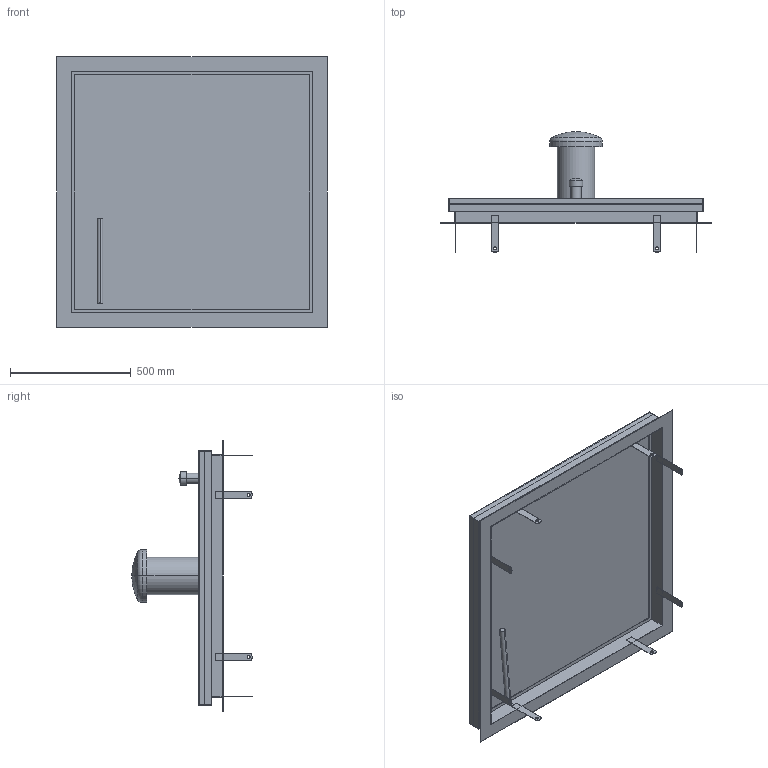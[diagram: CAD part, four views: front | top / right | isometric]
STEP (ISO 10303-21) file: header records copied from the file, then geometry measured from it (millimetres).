
FILE_DESCRIPTION((''),'2;1');
FILE_NAME('017_000105','2017-05-22T',('slc'),('HUBER SE'),'PRO/ENGINEER BY PARAMETRIC TECHNOLOGY CORPORATION, 2015280','PRO/ENGINEER BY PARAMETRIC TECHNOLOGY CORPORATION, 2015280','');
FILE_SCHEMA(('CONFIG_CONTROL_DESIGN'));
Length unit declared in the file: millimetre
Products named in the file (1): 017_000105
Bounding box: 1120 x 498 x 1120 mm (x, y, z)
Volume: 11278331.9 mm3; surface area: 6264350 mm2
Topology: 3 solids, 4 shells, 121 faces, 431 edges, 345 vertices
Faces by surface type: plane 81, cylinder 34, sphere 2, torus 2, bspline 2
Entity records: 4441 total; most frequent: CARTESIAN_POINT 936, DIRECTION 696, ORIENTED_EDGE 596, VECTOR 304, LINE 304, EDGE_CURVE 298, AXIS2_PLACEMENT_3D 196, VERTEX_POINT 192
